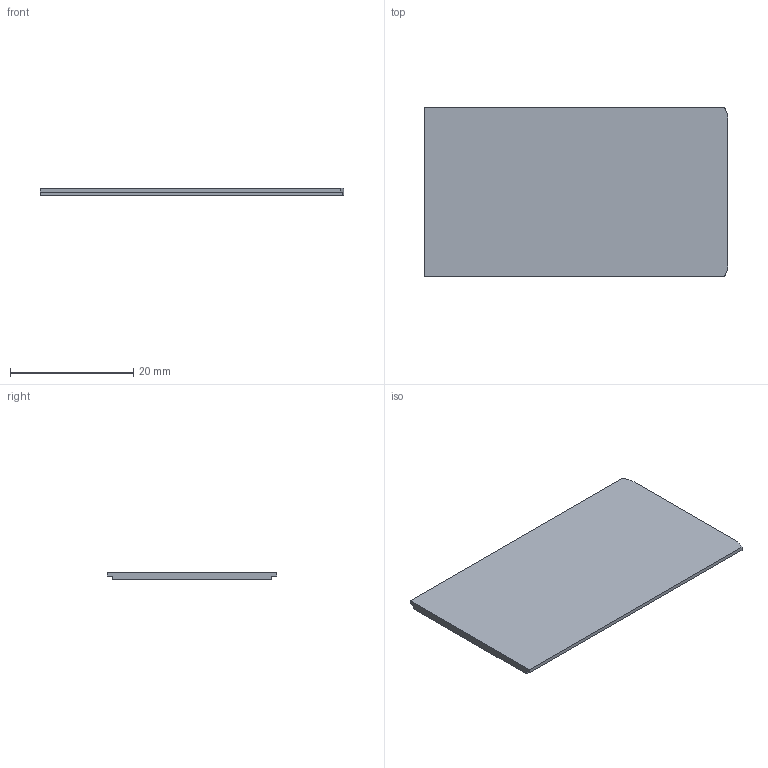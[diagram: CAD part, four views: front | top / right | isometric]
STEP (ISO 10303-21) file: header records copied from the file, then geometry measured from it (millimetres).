
FILE_DESCRIPTION(('Open CASCADE Model'),'2;1');
FILE_NAME('Open CASCADE Shape Model','2026-10-28T10:02:06',('Author'),( 'Open CASCADE'),'Open CASCADE STEP processor 7.7','Open CASCADE 7.7' ,'Unknown');
FILE_SCHEMA(('AUTOMOTIVE_DESIGN { 1 0 10303 214 1 1 1 1 }'));
Length unit declared in the file: millimetre
Products named in the file (1): SOLID
Bounding box: 49.4 x 27.5 x 1.2 mm (x, y, z)
Volume: 1582.2 mm3; surface area: 2897.2 mm2
Topology: 1 solids, 1 shells, 12 faces, 30 edges, 20 vertices
Faces by surface type: plane 10, cylinder 2
Entity records: 762 total; most frequent: CARTESIAN_POINT 175, DIRECTION 100, LINE 62, VECTOR 62, ORIENTED_EDGE 60, PCURVE 60, DEFINITIONAL_REPRESENTATION 60, EDGE_CURVE 30
